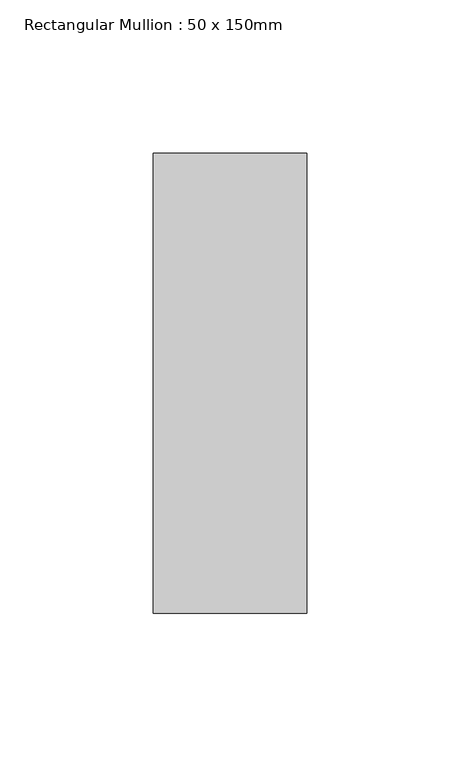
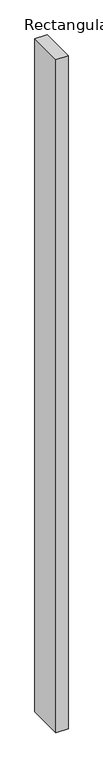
"""IFC4 building model written with IfcOpenShell, lengths in millimetres: member geometry, Rectangular Mullion : 50 x 150mm."""

from ifc_helpers import new_model, si_unit, frame, origin, place, context, project, spatial, polyline, outline, extrude, source, transform, mapped, element, save


def rectangular_mullion_50_x_150mm_4ae6e471(model_context):
    return source(origin(), model_context, "Body", "SweptSolid", [
        extrude(outline(polyline([(25.0, 75.0), (25.0, -75.0), (-25.0, -75.0), (-25.0, 75.0), (25.0, 75.0)])), frame((0.0, 0.0, -2932.5), z_axis=(0.0, 0.0, 1.0), x_axis=(1.0, 0.0, 0.0)), (0.0, 0.0, 1.0), 2932.5),
    ])


if __name__ == "__main__":
    model = new_model("IFC4")
    model_context = context("Model", 3, world=origin())
    ifc_project = project(units=[si_unit("LENGTHUNIT", "METRE", prefix="MILLI")], contexts=[model_context])
    site = spatial("IfcSite", under=ifc_project)
    building = spatial("IfcBuilding", under=site)
    placement = place(None, origin())
    rectangular_mullion_50_x_150mm_shape = rectangular_mullion_50_x_150mm_4ae6e471(model_context)
    element("IfcMember", 1, ObjectType="Rectangular Mullion : 50 x 150mm", at=placement, inside=building, context=model_context, shape_type="MappedRepresentation", body=[
        mapped(rectangular_mullion_50_x_150mm_shape, transform((0.0, 0.0, 0.0), x_axis=(1.0, 0.0, 0.0), y_axis=(0.0, 1.0, 0.0), z_axis=(0.0, 0.0, 1.0))),
    ])
    save(model, "model.ifc")
